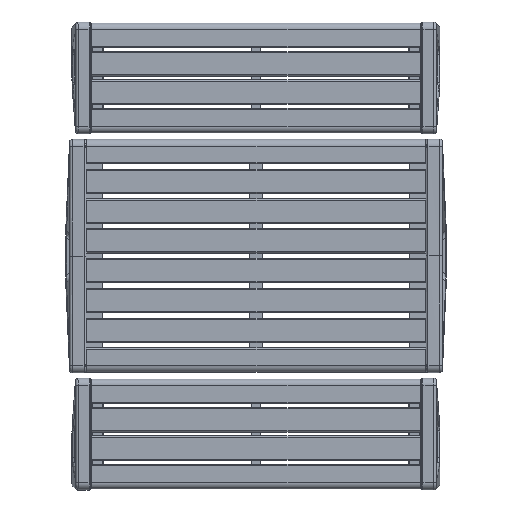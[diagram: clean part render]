
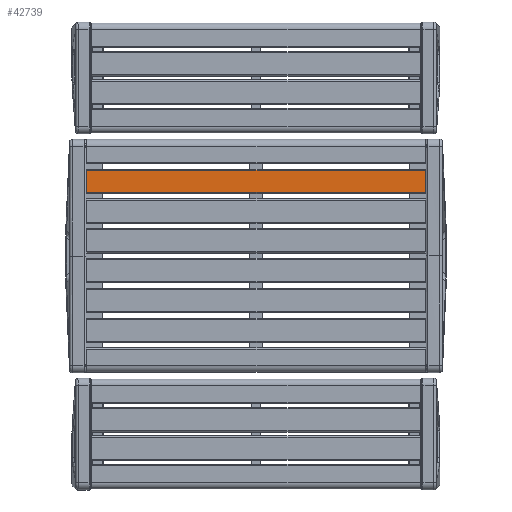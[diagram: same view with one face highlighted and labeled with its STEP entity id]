
A CAD part, top view. The second image highlights one B-rep face of the part: STEP entity #42739.
In plain terms, the highlighted planar face has unit normal (0, 0, 1) as drawn and (0, 1, 0) by its records, which use the part's own axes.
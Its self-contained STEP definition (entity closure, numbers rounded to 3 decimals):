
#1709=FACE_OUTER_BOUND('',#4068,.T.);
#4068=EDGE_LOOP('',(#27920,#27921,#27922,#27923));
#6486=LINE('',#58722,#11889);
#6487=LINE('',#58724,#11890);
#6488=LINE('',#58726,#11891);
#6489=LINE('',#58727,#11892);
#11889=VECTOR('',#48071,1000.);
#11890=VECTOR('',#48072,1000.);
#11891=VECTOR('',#48073,1000.);
#11892=VECTOR('',#48074,1000.);
#17284=VERTEX_POINT('',#58720);
#17285=VERTEX_POINT('',#58721);
#17286=VERTEX_POINT('',#58723);
#17287=VERTEX_POINT('',#58725);
#21457=EDGE_CURVE('',#17284,#17285,#6486,.T.);
#21458=EDGE_CURVE('',#17284,#17286,#6487,.T.);
#21459=EDGE_CURVE('',#17286,#17287,#6488,.T.);
#21460=EDGE_CURVE('',#17287,#17285,#6489,.T.);
#27920=ORIENTED_EDGE('',*,*,#21457,.F.);
#27921=ORIENTED_EDGE('',*,*,#21458,.T.);
#27922=ORIENTED_EDGE('',*,*,#21459,.T.);
#27923=ORIENTED_EDGE('',*,*,#21460,.T.);
#40733=PLANE('',#45389);
#42739=ADVANCED_FACE('',(#1709),#40733,.F.);
#45389=AXIS2_PLACEMENT_3D('',#58719,#48069,#48070);
#48069=DIRECTION('center_axis',(0.,-1.,0.));
#48070=DIRECTION('ref_axis',(0.,0.,
-1.));
#48071=DIRECTION('',(0.,0.,1.));
#48072=DIRECTION('',(-1.,0.,0.));
#48073=DIRECTION('',(0.,0.,1.));
#48074=DIRECTION('',(1.,0.,0.));
#58719=CARTESIAN_POINT('Origin',(690.,15.,50.));
#58720=CARTESIAN_POINT('',(690.,15.,-45.));
#58721=CARTESIAN_POINT('',(690.,15.,45.));
#58722=CARTESIAN_POINT('',(690.,15.,50.));
#58723=CARTESIAN_POINT('',(-690.,15.,-45.));
#58724=CARTESIAN_POINT('',(690.,15.,-45.));
#58725=CARTESIAN_POINT('',(-690.,15.,45.));
#58726=CARTESIAN_POINT('',(-690.,15.,50.));
#58727=CARTESIAN_POINT('',(690.,15.,45.));
